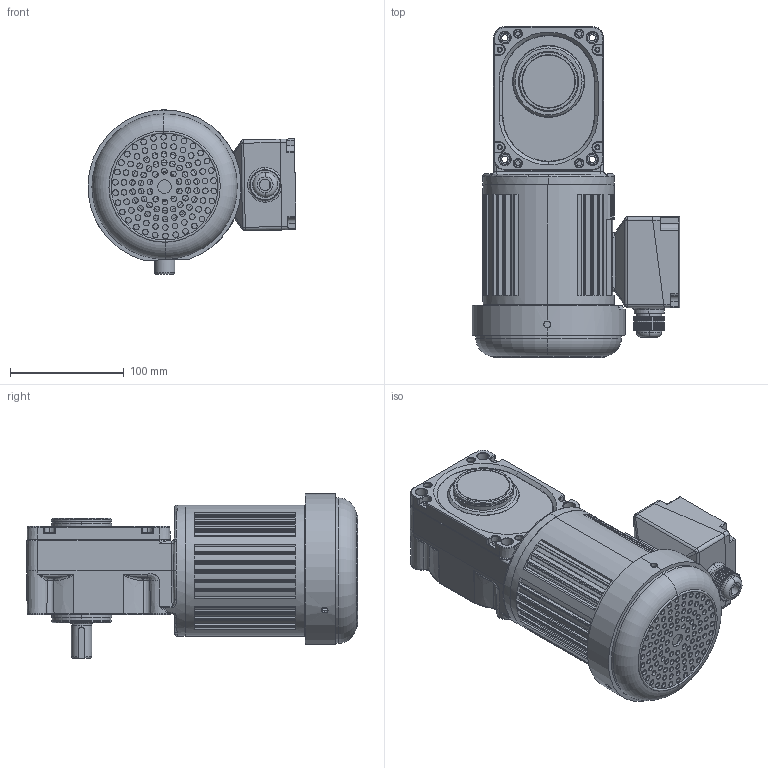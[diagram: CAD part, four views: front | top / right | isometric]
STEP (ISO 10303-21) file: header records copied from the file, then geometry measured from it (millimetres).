
FILE_DESCRIPTION (( 'STEP AP203' ), '1' );
FILE_NAME ('ZDF3-18A5K-60K-100-S3.STEP', '2020-05-05T06:00:27', ( '' ), ( '' ), 'SwSTEP 2.0', 'SolidWorks 2019', '' );
FILE_SCHEMA (( 'CONFIG_CONTROL_DESIGN' ));
Length unit declared in the file: millimetre
Products named in the file (9): ZDF3-18A5K-60K-100-S3(B); 諉芛; ZDF3-18A5K-60K-100-S3; 100W儂褲12.23; 100W綴傷裔; 100W-fengzhao; 諉盄碟釱12.23; 釱菜12.24; 諉盄碟裔
Assembly tree (8 placements, depth 2):
  ZDF3-18A5K-60K-100-S3
    ZDF3-18A5K-60K-100-S3(B)
    100W儂褲12.23
    諉盄碟釱12.23
    釱菜12.24
    諉芛
    諉盄碟裔
    100W綴傷裔
    100W-fengzhao
Bounding box: 183.1 x 291.46 x 144.5 mm (x, y, z)
Volume: 1435591.1 mm3; surface area: 383540.3 mm2
Topology: 9 solids, 22 shells, 2793 faces, 6998 edges, 4320 vertices
Faces by surface type: cylinder 1162, plane 715, bspline 316, cone 260, torus 215, sphere 125
Entity records: 107242 total; most frequent: CARTESIAN_POINT 41760, ORIENTED_EDGE 13934, DIRECTION 13141, EDGE_CURVE 6967, AXIS2_PLACEMENT_3D 5273, VERTEX_POINT 4316, EDGE_LOOP 3199, FACE_OUTER_BOUND 2793
